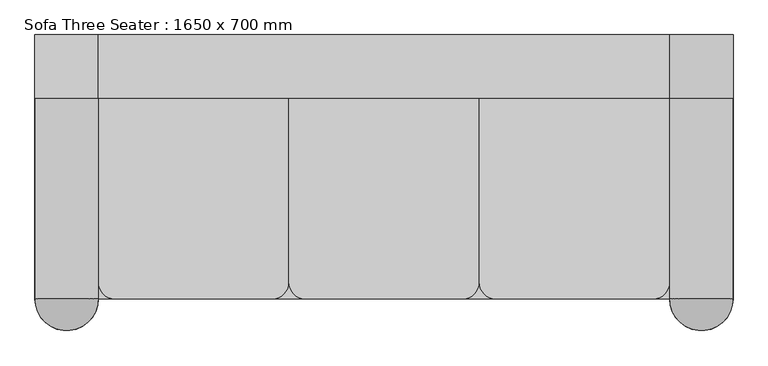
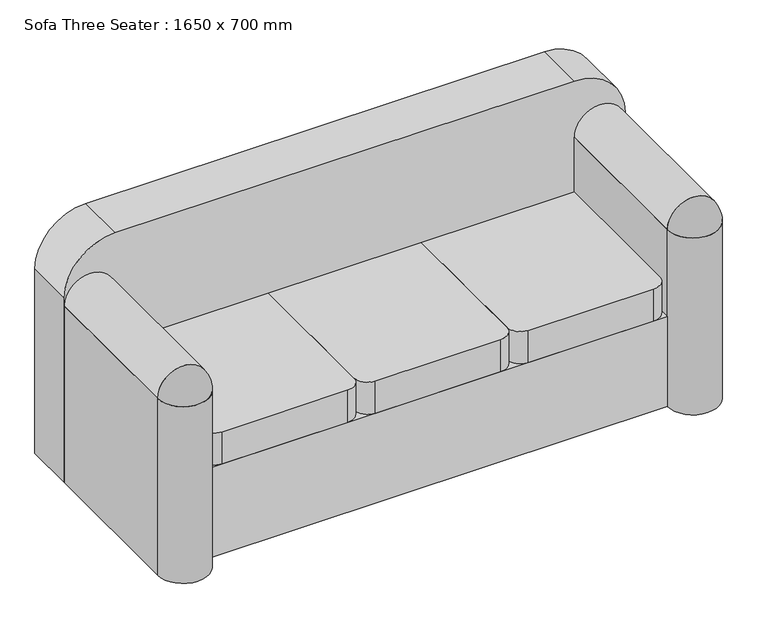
"""IFC4 building model written with IfcOpenShell, lengths in millimetres: proxy geometry, Sofa Three Seater : 1650 x 700 mm."""

from ifc_helpers import new_model, si_unit, point, frame, frame_2d, origin, origin_with_axes, place, context, project, spatial, polyline, circle_curve, ellipse_curve, trimmed, segment, composite_curve, outline, extrude, source, transform, mapped, element, save
from ifc_brep_helpers import plane_surface, revolved_surface, advanced_brep


def sofa_three_seater_1650_x_700_mm_776af1f2(model_context):
    return source(origin(), model_context, "Body", "SolidModel", [
        extrude(outline(composite_curve([segment(trimmed(circle_curve(frame_2d((575.0, 675.0)), 150.0), [point((575.0, 825.0))], [point((725.0, 675.0))], False, "CARTESIAN"), True, "CONTINUOUS"), segment(polyline([(725.0, 675.0), (725.0, -675.0)]), True, "CONTINUOUS"), segment(trimmed(circle_curve(frame_2d((575.0, -675.0)), 150.0), [point((725.0, -675.0))], [point((575.0, -825.0))], False, "CARTESIAN"), True, "CONTINUOUS"), segment(polyline([(575.0, -825.0), (0.0, -825.0), (0.0, 825.0), (575.0, 825.0)]), True, "CONTINUOUS")], self_intersect=False)), frame((0.0, 200.0, 0.0), z_axis=(0.0, 1.0, 0.0), x_axis=(0.0, 0.0, 1.0)), (0.0, 0.0, 1.0), 150.0),
        extrude(outline(composite_curve([segment(polyline([(675.0, 200.0), (675.0, -235.0)]), True, "CONTINUOUS"), segment(trimmed(circle_curve(frame_2d((635.0, -235.0)), 40.0), [point((675.0, -235.0))], [point((635.0, -275.0))], False, "CARTESIAN"), True, "CONTINUOUS"), segment(polyline([(635.0, -275.0), (265.0, -275.0)]), True, "CONTINUOUS"), segment(trimmed(circle_curve(frame_2d((265.0, -235.0)), 40.0), [point((265.0, -275.0))], [point((225.0, -235.0))], False, "CARTESIAN"), True, "CONTINUOUS"), segment(polyline([(225.0, -235.0), (225.0, 200.0), (675.0, 200.0)]), True, "CONTINUOUS")], self_intersect=False)), frame((0.0, 0.0, 280.0), z_axis=(0.0, 0.0, 1.0), x_axis=(1.0, 0.0, 0.0)), (0.0, 0.0, 1.0), 100.0),
        extrude(outline(composite_curve([segment(polyline([(225.0, 200.0), (225.0, -235.0)]), True, "CONTINUOUS"), segment(trimmed(circle_curve(frame_2d((185.0, -235.0)), 40.0), [point((225.0, -235.0))], [point((185.0, -275.0))], False, "CARTESIAN"), True, "CONTINUOUS"), segment(polyline([(185.0, -275.0), (-185.0, -275.0)]), True, "CONTINUOUS"), segment(trimmed(circle_curve(frame_2d((-185.0, -235.0)), 40.0), [point((-185.0, -275.0))], [point((-225.0, -235.0))], False, "CARTESIAN"), True, "CONTINUOUS"), segment(polyline([(-225.0, -235.0), (-225.0, 200.0), (225.0, 200.0)]), True, "CONTINUOUS")], self_intersect=False)), frame((0.0, 0.0, 280.0), z_axis=(0.0, 0.0, 1.0), x_axis=(1.0, 0.0, 0.0)), (0.0, 0.0, 1.0), 100.0),
        extrude(outline(composite_curve([segment(polyline([(-225.0, 200.0), (-225.0, -235.0)]), True, "CONTINUOUS"), segment(trimmed(circle_curve(frame_2d((-265.0, -235.0)), 40.0), [point((-225.0, -235.0))], [point((-265.0, -275.0))], False, "CARTESIAN"), True, "CONTINUOUS"), segment(polyline([(-265.0, -275.0), (-635.0, -275.0)]), True, "CONTINUOUS"), segment(trimmed(circle_curve(frame_2d((-635.0, -235.0)), 40.0), [point((-635.0, -275.0))], [point((-675.0, -235.0))], False, "CARTESIAN"), True, "CONTINUOUS"), segment(polyline([(-675.0, -235.0), (-675.0, 200.0), (-225.0, 200.0)]), True, "CONTINUOUS")], self_intersect=False)), frame((0.0, 0.0, 280.0), z_axis=(0.0, 0.0, 1.0), x_axis=(1.0, 0.0, 0.0)), (0.0, 0.0, 1.0), 100.0),
        extrude(outline(composite_curve([segment(polyline([(675.0, -275.0), (675.0, 200.0), (825.0, 200.0), (825.0, -275.0)]), True, "CONTINUOUS"), segment(trimmed(circle_curve(frame_2d((750.0, -275.0)), 75.0), [point((825.0, -275.0))], [point((675.0, -275.0))], False, "CARTESIAN"), True, "CONTINUOUS")], self_intersect=False)), origin_with_axes(), (0.0, 0.0, 1.0), 550.0),
        extrude(outline(composite_curve([segment(polyline([(-825.0, -275.0), (-825.0, 200.0), (-675.0, 200.0), (-675.0, -275.0)]), True, "CONTINUOUS"), segment(trimmed(circle_curve(frame_2d((-750.0, -275.0)), 75.0), [point((-675.0, -275.0))], [point((-825.0, -275.0))], False, "CARTESIAN"), True, "CONTINUOUS")], self_intersect=False)), origin_with_axes(), (0.0, 0.0, 1.0), 550.0),
        advanced_brep(
        [(675.0, -275.0, 550.0), (825.0, -275.0, 550.0)],
        [
            (0, 1),
            (1, 0, circle_curve(frame((750.0, -275.0, 550.0), z_axis=(0.0, 0.0, -1.0), x_axis=(0.0, 1.0, 0.0)), 75.0)),
            (0, 1, circle_curve(frame((750.0, -275.0, 550.0), z_axis=(0.0, 1.0, 0.0), x_axis=(0.0, 0.0, -1.0)), 75.0)),
        ],
        [
            plane_surface(frame((860.0, -275.0, 550.0), z_axis=(0.0, 0.0, -1.0), x_axis=(0.0, -1.0, 0.0))),
            plane_surface(frame((860.0, -275.0, 550.0), z_axis=(0.0, 1.0, 0.0), x_axis=(0.0, 0.0, 1.0))),
            revolved_surface(trimmed(ellipse_curve(frame((750.0, -275.0, 550.0), z_axis=(0.0, 0.0, 1.0), x_axis=(0.0, 1.0, 0.0)), 75.0, 75.0), [point((675.0, -275.0, 550.0))], [point((825.0, -275.0, 550.0))], True, "CARTESIAN"), (860.0, -275.0, 550.0), (1.0, 0.0, 0.0)),
        ],
        [
            (0, [[1, 2]]),
            (1, [[3, -1]]),
            (2, [[-2, -3]]),
        ],
    ),
        extrude(outline(polyline([(675.0, 200.0), (675.0, -275.0), (-675.0, -275.0), (-675.0, 200.0), (675.0, 200.0)])), origin_with_axes(), (0.0, 0.0, 1.0), 280.0),
        extrude(outline(composite_curve([segment(trimmed(circle_curve(frame_2d((550.0, 750.0)), 75.0), [point((550.0, 825.0))], [point((550.0, 675.0))], False, "CARTESIAN"), True, "CONTINUOUS"), segment(polyline([(550.0, 675.0), (550.0, 825.0)]), True, "CONTINUOUS")], self_intersect=False)), frame((0.0, -275.0, 0.0), z_axis=(0.0, 1.0, 0.0), x_axis=(0.0, 0.0, 1.0)), (0.0, 0.0, 1.0), 475.0),
        advanced_brep(
        [(-675.0, -275.0, 550.0), (-825.0, -275.0, 550.0)],
        [
            (0, 1, circle_curve(frame((-750.0, -275.0, 550.0), z_axis=(0.0, 0.0, -1.0), x_axis=(0.0, -1.0, 0.0)), 75.0)),
            (1, 0),
            (1, 0, circle_curve(frame((-750.0, -275.0, 550.0), z_axis=(0.0, 1.0, 0.0), x_axis=(0.0, 0.0, 1.0)), 75.0)),
        ],
        [
            plane_surface(frame((-860.0, -275.0, 550.0), z_axis=(0.0, 0.0, -1.0), x_axis=(0.0, -1.0, 0.0))),
            plane_surface(frame((-860.0, -275.0, 550.0), z_axis=(0.0, 1.0, 0.0), x_axis=(0.0, 0.0, 1.0))),
            revolved_surface(trimmed(ellipse_curve(frame((-750.0, -275.0, 550.0), z_axis=(0.0, 0.0, 1.0), x_axis=(0.0, -1.0, 0.0)), 75.0, 75.0), [point((-825.0, -275.0, 550.0))], [point((-675.0, -275.0, 550.0))], True, "CARTESIAN"), (-860.0, -275.0, 550.0), (1.0, 0.0, 0.0)),
        ],
        [
            (0, [[1, 2]]),
            (1, [[3, -2]]),
            (2, [[-1, -3]]),
        ],
    ),
        extrude(outline(composite_curve([segment(polyline([(550.0, -825.0), (550.0, -675.0)]), True, "CONTINUOUS"), segment(trimmed(circle_curve(frame_2d((550.0, -750.0)), 75.0), [point((550.0, -675.0))], [point((550.0, -825.0))], False, "CARTESIAN"), True, "CONTINUOUS")], self_intersect=False)), frame((0.0, -275.0, 0.0), z_axis=(0.0, 1.0, 0.0), x_axis=(0.0, 0.0, 1.0)), (0.0, 0.0, 1.0), 475.0),
    ])


if __name__ == "__main__":
    model = new_model("IFC4")
    model_context = context("Model", 3, world=origin())
    ifc_project = project(units=[si_unit("LENGTHUNIT", "METRE", prefix="MILLI")], contexts=[model_context])
    site = spatial("IfcSite", under=ifc_project)
    building = spatial("IfcBuilding", under=site)
    placement = place(None, origin())
    sofa_three_seater_1650_x_700_mm_shape = sofa_three_seater_1650_x_700_mm_776af1f2(model_context)
    element("IfcBuildingElementProxy", 1, Name="Sofa Three Seater : 1650 x 700 mm", ObjectType="Sofa Three Seater : 1650 x 700 mm", at=placement, inside=building, context=model_context, shape_type="MappedRepresentation", body=[
        mapped(sofa_three_seater_1650_x_700_mm_shape, transform((0.0, 0.0, 0.0), x_axis=(1.0, 0.0, 0.0), y_axis=(0.0, 1.0, 0.0), z_axis=(0.0, 0.0, 1.0))),
    ])
    save(model, "model.ifc")
